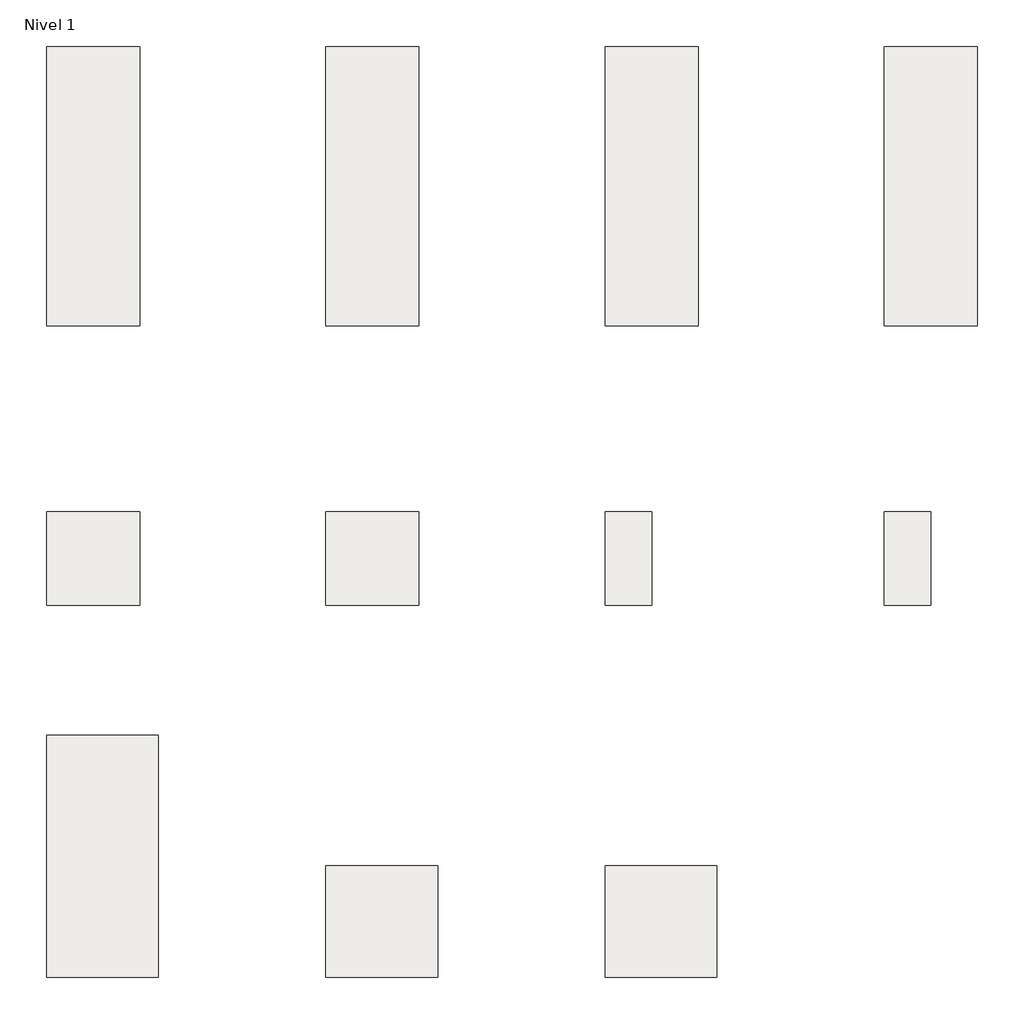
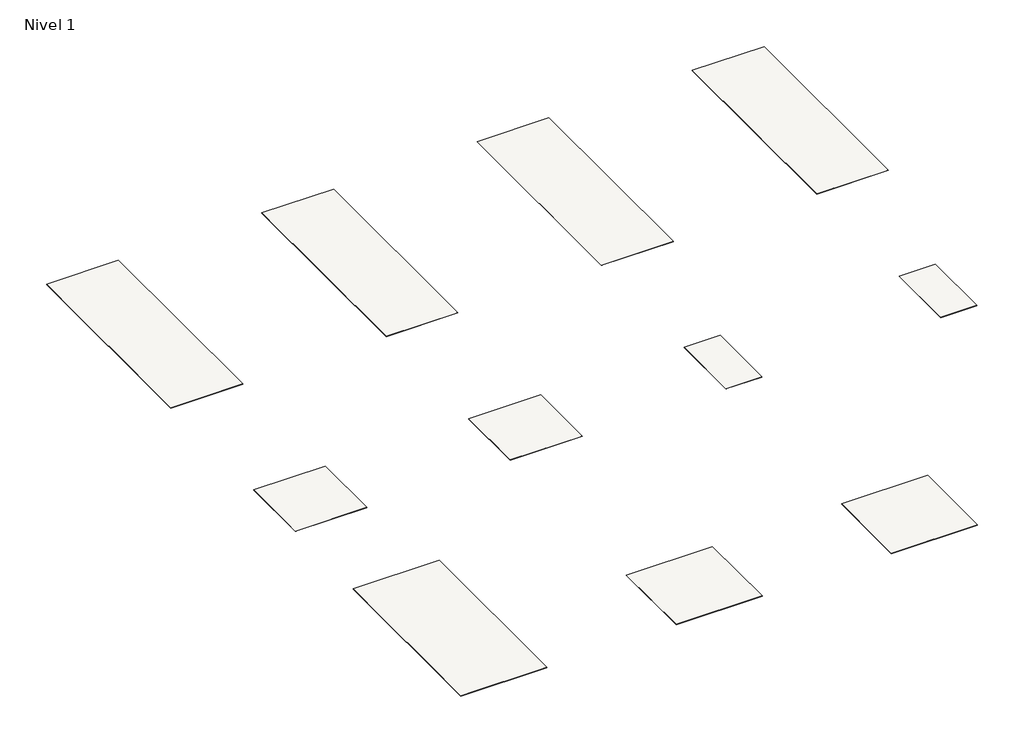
# One storey: 11 slabs.
"""IFC4 building model written with IfcOpenShell, lengths in millimetres."""

from ifc_helpers import new_model, si_unit, frame, origin, place, context, project, spatial, polyline, outline, extrude, element, save

model = new_model("IFC4")

# Units and contexts
model_context = context("Model", 3, world=origin())
ifc_project = project(units=[si_unit("LENGTHUNIT", "METRE", prefix="MILLI")], contexts=[model_context])

# Site, building, storey
site = spatial("IfcSite", under=ifc_project)
building = spatial("IfcBuilding", under=site)
storey = spatial("IfcBuildingStorey", under=building, Name="Nivel 1", Elevation=0.0)

# Slabs
placement = place(None, origin())
element("IfcSlab", 1, ObjectType="Calacata Book-A P.100X300 5,6", at=placement, inside=storey, context=model_context, shape_type="SweptSolid", body=[
    extrude(outline(polyline([(0.0, 3000.0), (1000.0, 3000.0), (1000.0, 0.0), (0.0, 0.0), (0.0, 3000.0)])), frame((0.0, 0.0, -5.6), z_axis=(0.0, 0.0, 1.0), x_axis=(1.0, 0.0, 0.0)), (0.0, 0.0, 1.0), 5.6),
])
element("IfcSlab", 2, ObjectType="Calacata Book-B P.100X300 5,6", at=placement, inside=storey, context=model_context, shape_type="SweptSolid", body=[
    extrude(outline(polyline([(3000.0, 3000.0), (4000.0, 3000.0), (4000.0, 0.0), (3000.0, 0.0), (3000.0, 3000.0)])), frame((0.0, 0.0, -5.6), z_axis=(0.0, 0.0, 1.0), x_axis=(1.0, 0.0, 0.0)), (0.0, 0.0, 1.0), 5.6),
])
element("IfcSlab", 3, ObjectType="Calacata Mix 100X300 5,6", at=placement, inside=storey, context=model_context, shape_type="SweptSolid", body=[
    extrude(outline(polyline([(6000.0, 3000.0), (7000.0, 3000.0), (7000.0, 0.0), (6000.0, 0.0), (6000.0, 3000.0)])), frame((0.0, 0.0, -5.6), z_axis=(0.0, 0.0, 1.0), x_axis=(1.0, 0.0, 0.0)), (0.0, 0.0, 1.0), 5.6),
])
element("IfcSlab", 4, ObjectType="Calacata Mix Pulido 100X300 5,6", at=placement, inside=storey, context=model_context, shape_type="SweptSolid", body=[
    extrude(outline(polyline([(9000.0, 3000.0), (10000.0, 3000.0), (10000.0, 0.0), (9000.0, 0.0), (9000.0, 3000.0)])), frame((0.0, 0.0, -5.6), z_axis=(0.0, 0.0, 1.0), x_axis=(1.0, 0.0, 0.0)), (0.0, 0.0, 1.0), 5.6),
])
element("IfcSlab", 5, ObjectType="Calacata Mix 100X100 5,6", at=placement, inside=storey, context=model_context, shape_type="SweptSolid", body=[
    extrude(outline(polyline([(0.0, -2000.0), (1000.0, -2000.0), (1000.0, -3000.0), (0.0, -3000.0), (0.0, -2000.0)])), frame((0.0, 0.0, -5.6), z_axis=(0.0, 0.0, 1.0), x_axis=(1.0, 0.0, 0.0)), (0.0, 0.0, 1.0), 5.6),
])
element("IfcSlab", 6, ObjectType="Calacata Mix Pulido 100X100 5,6", at=placement, inside=storey, context=model_context, shape_type="SweptSolid", body=[
    extrude(outline(polyline([(3000.0, -2000.0), (4000.0, -2000.0), (4000.0, -3000.0), (3000.0, -3000.0), (3000.0, -2000.0)])), frame((0.0, 0.0, -5.6), z_axis=(0.0, 0.0, 1.0), x_axis=(1.0, 0.0, 0.0)), (0.0, 0.0, 1.0), 5.6),
])
element("IfcSlab", 7, ObjectType="Calacata Mix 100X50 5,6", at=placement, inside=storey, context=model_context, shape_type="SweptSolid", body=[
    extrude(outline(polyline([(6000.0, -2000.0), (6500.0, -2000.0), (6500.0, -3000.0), (6000.0, -3000.0), (6000.0, -2000.0)])), frame((0.0, 0.0, -5.6), z_axis=(0.0, 0.0, 1.0), x_axis=(1.0, 0.0, 0.0)), (0.0, 0.0, 1.0), 5.6),
])
element("IfcSlab", 8, ObjectType="Calacata Mix Pulido 100X50 5,6", at=placement, inside=storey, context=model_context, shape_type="SweptSolid", body=[
    extrude(outline(polyline([(9000.0, -2000.0), (9500.0, -2000.0), (9500.0, -3000.0), (9000.0, -3000.0), (9000.0, -2000.0)])), frame((0.0, 0.0, -5.6), z_axis=(0.0, 0.0, 1.0), x_axis=(1.0, 0.0, 0.0)), (0.0, 0.0, 1.0), 5.6),
])
element("IfcSlab", 9, ObjectType="Calacata Mix Pulido 120X260 5,6", at=placement, inside=storey, context=model_context, shape_type="SweptSolid", body=[
    extrude(outline(polyline([(0.0, -4400.0), (1200.0, -4400.0), (1200.0, -7000.0), (0.0, -7000.0), (0.0, -4400.0)])), frame((0.0, 0.0, -5.6), z_axis=(0.0, 0.0, 1.0), x_axis=(1.0, 0.0, 0.0)), (0.0, 0.0, 1.0), 5.6),
])
element("IfcSlab", 10, ObjectType="Calacata Mix 120X120 5,6", at=placement, inside=storey, context=model_context, shape_type="SweptSolid", body=[
    extrude(outline(polyline([(3000.0, -5800.0), (4200.0, -5800.0), (4200.0, -7000.0), (3000.0, -7000.0), (3000.0, -5800.0)])), frame((0.0, 0.0, -5.6), z_axis=(0.0, 0.0, 1.0), x_axis=(1.0, 0.0, 0.0)), (0.0, 0.0, 1.0), 5.6),
])
element("IfcSlab", 11, ObjectType="Calacata Mix Pulido 120X120 5,6", at=placement, inside=storey, context=model_context, shape_type="SweptSolid", body=[
    extrude(outline(polyline([(6000.0, -5800.0), (7200.0, -5800.0), (7200.0, -7000.0), (6000.0, -7000.0), (6000.0, -5800.0)])), frame((0.0, 0.0, -5.6), z_axis=(0.0, 0.0, 1.0), x_axis=(1.0, 0.0, 0.0)), (0.0, 0.0, 1.0), 5.6),
])

save(model, "model.ifc")
